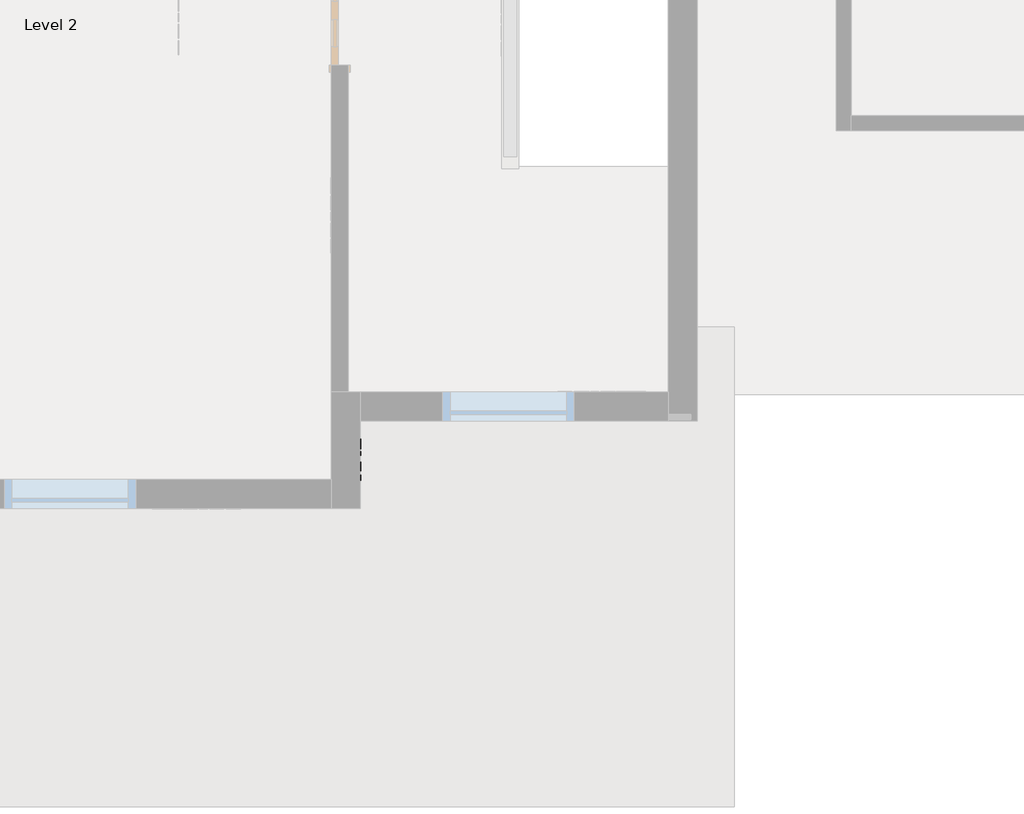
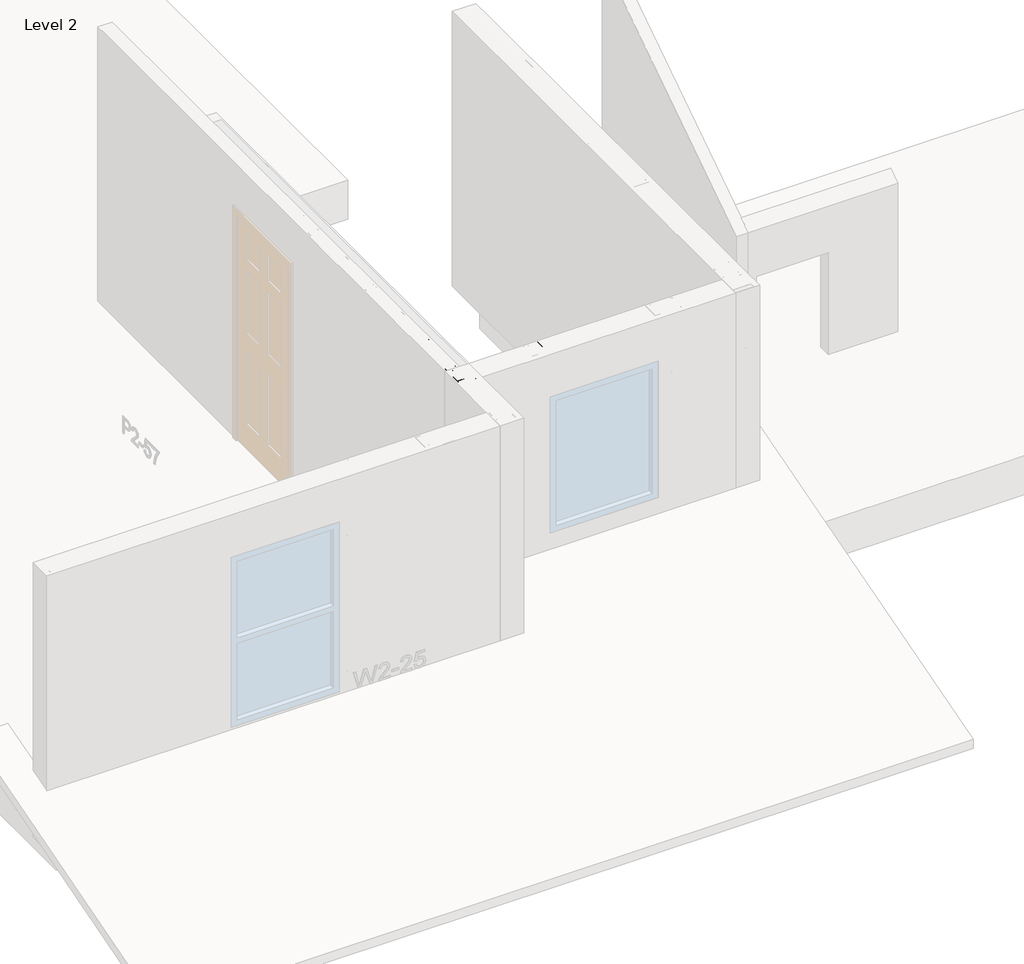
# One storey, part 5 of 46: 6 columns, 2 beams, 1 fastener.
"""IFC4 building model written with IfcOpenShell, lengths in millimetres."""

from ifc_helpers import new_model, si_unit, point, frame, origin, place, context, project, spatial, circle_curve, ellipse_curve, trimmed, transform, mapped, element, save
from ifc_brep_helpers import plane_surface, extruded_surface, advanced_brep
from components import beam_550nf150_43_f91dca98, beam_550nf150_43_4e6669e4, panellabel_ff9b96a9

model = new_model("IFC4")

# Units and contexts
model_context = context("Model", 3, world=origin())
ifc_project = project(units=[si_unit("LENGTHUNIT", "METRE", prefix="MILLI")], contexts=[model_context])

# Site, building, storey
site = spatial("IfcSite", under=ifc_project)
building = spatial("IfcBuilding", under=site)
storey = spatial("IfcBuildingStorey", under=building, Name="Level 2", Elevation=3060.7)

# Beams
placement = place(None, origin())
beam_550nf150_43_shape = beam_550nf150_43_f91dca98(model_context)
element("IfcBeam", 1, ObjectType="BIMSF-SSMA-S : 550NF150-43", at=placement, inside=storey, context=model_context, shape_type="MappedRepresentation", body=[
    mapped(beam_550nf150_43_shape, transform((-10234.7413349, 2492.502221, 3905.25), x_axis=(-1.0, 0.0, 0.0), y_axis=(0.0, 0.0, 1.0), z_axis=(0.0, 1.0, 0.0))),
])
beam_550nf150_43_2_shape = beam_550nf150_43_4e6669e4(model_context)
element("IfcBeam", 2, ObjectType="BIMSF-SSMA-S : 550NF150-43", at=placement, inside=storey, context=model_context, shape_type="MappedRepresentation", body=[
    mapped(beam_550nf150_43_2_shape, transform((-10209.3413349, 2492.502221, 3076.575), x_axis=(-1.0000000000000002, 0.0, 0.0), y_axis=(0.0, 0.0, -1.0000000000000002), z_axis=(0.0, -1.0000000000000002, 0.0))),
])

# Columns
element("IfcColumn", 3, ObjectType="BIMSF-SSMA-S-Column : 350NF150-33", at=placement, inside=storey, context=model_context, shape_type="AdvancedBrep", body=[
    advanced_brep(
    [(-11365.0413349, 2562.352221, 3061.5929687), (-11453.9413349, 2562.352221, 3061.5929687), (-11453.9413349, 2600.452221, 3061.5929687), (-11448.2838191, 2600.452221, 3061.5929687), (-11448.2838191, 2599.5699052, 3061.5929687), (-11453.0590191, 2599.5699052, 3061.5929687), (-11453.0590191, 2563.2345367, 3061.5929687), (-11365.9236507, 2563.2345367, 3061.5929687), (-11365.9236507, 2599.5699052, 3061.5929687), (-11370.6988507, 2599.5699052, 3061.5929687), (-11370.6988507, 2600.452221, 3061.5929687), (-11365.0413349, 2600.452221, 3061.5929687), (-11365.0413349, 2562.352221, 5523.6070313), (-11453.9413349, 2562.352221, 5523.6070313), (-11422.1913349, 2562.352221, 3671.1929688), (-11396.7913349, 2562.352221, 3671.1929688), (-11422.1913349, 2562.352221, 4890.3929687), (-11396.7913349, 2562.352221, 4890.3929687), (-11453.9413349, 2600.452221, 5523.6070313), (-11448.2838191, 2600.452221, 5523.6070313), (-11448.2838191, 2599.5699052, 5523.6070313), (-11453.0590191, 2599.5699052, 5523.6070313), (-11453.0590191, 2563.2345367, 5523.6070313), (-11365.9236507, 2563.2345367, 5523.6070313), (-11396.7913349, 2563.2345367, 3671.1929688), (-11422.1913349, 2563.2345367, 3671.1929688), (-11396.7913349, 2563.2345367, 4890.3929688), (-11422.1913349, 2563.2345367, 4890.3929688), (-11365.9236507, 2599.5699052, 5523.6070313), (-11370.6988507, 2599.5699052, 5523.6070313), (-11370.6988507, 2600.452221, 5523.6070313), (-11365.0413349, 2600.452221, 5523.6070313)],
    [
        (0, 1),
        (1, 2),
        (2, 3),
        (3, 4),
        (4, 5),
        (5, 6),
        (6, 7),
        (7, 8),
        (8, 9),
        (9, 10),
        (10, 11),
        (11, 0),
        (0, 12),
        (12, 13),
        (13, 1),
        (14, 15, circle_curve(frame((-11409.4913349, 2562.352221, 3671.1929688), z_axis=(0.0, 1.0, 0.0), x_axis=(-1.0, 0.0, 0.0)), 12.7)),
        (15, 14, circle_curve(frame((-11409.4913349, 2562.352221, 3671.1929688), z_axis=(0.0, 1.0, 0.0), x_axis=(-1.0, 0.0, 0.0)), 12.7)),
        (16, 17, circle_curve(frame((-11409.4913349, 2562.352221, 4890.3929688), z_axis=(0.0, 1.0, 0.0), x_axis=(-1.0, 0.0, 0.0)), 12.7)),
        (17, 16, circle_curve(frame((-11409.4913349, 2562.352221, 4890.3929688), z_axis=(0.0, 1.0, 0.0), x_axis=(-1.0, 0.0, 0.0)), 12.7)),
        (13, 18),
        (18, 2),
        (18, 19),
        (19, 3),
        (19, 20),
        (20, 4),
        (20, 21),
        (21, 5),
        (21, 22),
        (22, 6),
        (22, 23),
        (23, 7),
        (24, 25, circle_curve(frame((-11409.4913349, 2563.2345367, 3671.1929688), z_axis=(0.0, -1.0, 0.0), x_axis=(-1.0, 0.0, 0.0)), 12.7)),
        (25, 24, circle_curve(frame((-11409.4913349, 2563.2345367, 3671.1929688), z_axis=(0.0, -1.0, 0.0), x_axis=(-1.0, 0.0, 0.0)), 12.7)),
        (26, 27, circle_curve(frame((-11409.4913349, 2563.2345367, 4890.3929687), z_axis=(0.0, -1.0, 0.0), x_axis=(-1.0, 0.0, 0.0)), 12.7)),
        (27, 26, circle_curve(frame((-11409.4913349, 2563.2345367, 4890.3929687), z_axis=(0.0, -1.0, 0.0), x_axis=(-1.0, 0.0, 0.0)), 12.7)),
        (23, 28),
        (28, 8),
        (28, 29),
        (29, 9),
        (29, 30),
        (30, 10),
        (30, 31),
        (31, 11),
        (31, 12),
        (24, 15),
        (14, 25),
        (26, 17),
        (16, 27),
    ],
    [
        plane_surface(frame((-11365.0413349, 2562.352221, 3061.5929687), z_axis=(0.0, 0.0, -1.0), x_axis=(0.0, -1.0, 0.0))),
        plane_surface(frame((-11453.9413349, 2562.352221, 5523.6070313), z_axis=(0.0, -1.0, 0.0), x_axis=(0.0, 0.0, -1.0))),
        plane_surface(frame((-11453.9413349, 2600.452221, 5523.6070313), z_axis=(-1.0, 0.0, 0.0), x_axis=(0.0, 0.0, -1.0))),
        plane_surface(frame((-11448.2838191, 2600.452221, 5523.6070313), z_axis=(0.0, 1.0, 0.0), x_axis=(0.0, 0.0, -1.0))),
        plane_surface(frame((-11448.2838191, 2599.5699052, 5523.6070313), z_axis=(1.0, 0.0, 0.0), x_axis=(0.0, 0.0, -1.0))),
        plane_surface(frame((-11453.0590191, 2599.5699052, 5523.6070313), z_axis=(0.0, -1.0, 0.0), x_axis=(0.0, 0.0, -1.0))),
        plane_surface(frame((-11453.0590191, 2563.2345367, 5523.6070313), z_axis=(1.0, 0.0, 0.0), x_axis=(0.0, 0.0, -1.0))),
        plane_surface(frame((-11365.9236507, 2563.2345367, 5523.6070313), z_axis=(0.0, 1.0, 0.0), x_axis=(0.0, 0.0, -1.0))),
        plane_surface(frame((-11365.9236507, 2599.5699052, 5523.6070313), z_axis=(-1.0, 0.0, 0.0), x_axis=(0.0, 0.0, -1.0))),
        plane_surface(frame((-11370.6988507, 2599.5699052, 5523.6070313), z_axis=(0.0, -1.0, 0.0), x_axis=(0.0, 0.0, -1.0))),
        plane_surface(frame((-11370.6988507, 2600.452221, 5523.6070313), z_axis=(-1.0, 0.0, 0.0), x_axis=(0.0, 0.0, -1.0))),
        plane_surface(frame((-11365.0413349, 2600.452221, 5523.6070313), z_axis=(0.0, 1.0, 0.0), x_axis=(0.0, 0.0, -1.0))),
        plane_surface(frame((-11365.0413349, 2562.352221, 5523.6070313), z_axis=(1.0, 0.0, 0.0), x_axis=(0.0, 0.0, -1.0))),
        plane_surface(frame((-11365.0413349, 2562.352221, 5523.6070313), z_axis=(0.0, 0.0, 1.0), x_axis=(0.0, 1.0, 0.0))),
        extruded_surface(trimmed(ellipse_curve(frame((-11409.4913349, 5043.4162835, 3671.1929688), z_axis=(0.0, -1.0, 0.0), x_axis=(-1.0, 0.0, 0.0)), 12.7, 12.7), [point((-11396.7913349, 5043.4162835, 3671.1929688))], [point((-11422.1913349, 5043.4162835, 3671.1929688))], True, "CARTESIAN"), (0.0, 4924.028125, 0.0), 4924.028125),
        extruded_surface(trimmed(ellipse_curve(frame((-11409.4913349, 5043.4162835, 3671.1929688), z_axis=(0.0, -1.0, 0.0), x_axis=(-1.0, 0.0, 0.0)), 12.7, 12.7), [point((-11422.1913349, 5043.4162835, 3671.1929688))], [point((-11396.7913349, 5043.4162835, 3671.1929688))], True, "CARTESIAN"), (0.0, 4924.028125, 0.0), 4924.028125),
        extruded_surface(trimmed(ellipse_curve(frame((-11409.4913349, 5043.4162835, 4890.3929687), z_axis=(0.0, -1.0, 0.0), x_axis=(-1.0, 0.0, 0.0)), 12.7, 12.7), [point((-11396.7913349, 5043.4162835, 4890.3929687))], [point((-11422.1913349, 5043.4162835, 4890.3929687))], True, "CARTESIAN"), (0.0, 4924.028125, 0.0), 4924.028125),
        extruded_surface(trimmed(ellipse_curve(frame((-11409.4913349, 5043.4162835, 4890.3929687), z_axis=(0.0, -1.0, 0.0), x_axis=(-1.0, 0.0, 0.0)), 12.7, 12.7), [point((-11422.1913349, 5043.4162835, 4890.3929687))], [point((-11396.7913349, 5043.4162835, 4890.3929687))], True, "CARTESIAN"), (0.0, 4924.028125, 0.0), 4924.028125),
    ],
    [
        (0, [[1, 2, 3, 4, 5, 6, 7, 8, 9, 10, 11, 12]]),
        (1, [[-1, 13, 14, 15], [16, 17], [18, 19]]),
        (2, [[-2, -15, 20, 21]]),
        (3, [[-3, -21, 22, 23]]),
        (4, [[-4, -23, 24, 25]]),
        (5, [[-5, -25, 26, 27]]),
        (6, [[-6, -27, 28, 29]]),
        (7, [[-7, -29, 30, 31], [32, 33], [34, 35]]),
        (8, [[-8, -31, 36, 37]]),
        (9, [[-9, -37, 38, 39]]),
        (10, [[-10, -39, 40, 41]]),
        (11, [[-11, -41, 42, 43]]),
        (12, [[-12, -43, 44, -13]]),
        (13, [[-14, -44, -42, -40, -38, -36, -30, -28, -26, -24, -22, -20]]),
        (14, [[45, -16, 46, -32]]),
        (15, [[-45, -33, -46, -17]]),
        (16, [[47, -18, 48, -34]]),
        (17, [[-47, -35, -48, -19]]),
    ],
),
])
element("IfcColumn", 4, ObjectType="BIMSF-SSMA-S-Column : 350NF150-33", at=placement, inside=storey, context=model_context, shape_type="AdvancedBrep", body=[
    advanced_brep(
    [(-11365.0413349, 2949.702221, 3061.5929687), (-11453.9413349, 2949.702221, 3061.5929687), (-11453.9413349, 2987.802221, 3061.5929687), (-11448.2838191, 2987.802221, 3061.5929687), (-11448.2838191, 2986.9199052, 3061.5929687), (-11453.0590191, 2986.9199052, 3061.5929687), (-11453.0590191, 2950.5845367, 3061.5929687), (-11365.9236507, 2950.5845367, 3061.5929687), (-11365.9236507, 2986.9199052, 3061.5929687), (-11370.6988507, 2986.9199052, 3061.5929687), (-11370.6988507, 2987.802221, 3061.5929687), (-11365.0413349, 2987.802221, 3061.5929687), (-11365.0413349, 2949.702221, 5523.6070313), (-11453.9413349, 2949.702221, 5523.6070313), (-11422.1913349, 2949.702221, 3671.1929688), (-11396.7913349, 2949.702221, 3671.1929688), (-11422.1913349, 2949.702221, 4890.3929687), (-11396.7913349, 2949.702221, 4890.3929687), (-11453.9413349, 2987.802221, 5523.6070313), (-11448.2838191, 2987.802221, 5523.6070313), (-11448.2838191, 2986.9199052, 5523.6070313), (-11453.0590191, 2986.9199052, 5523.6070313), (-11453.0590191, 2950.5845367, 5523.6070313), (-11365.9236507, 2950.5845367, 5523.6070313), (-11396.7913349, 2950.5845367, 3671.1929688), (-11422.1913349, 2950.5845367, 3671.1929688), (-11396.7913349, 2950.5845367, 4890.3929688), (-11422.1913349, 2950.5845367, 4890.3929688), (-11365.9236507, 2986.9199052, 5523.6070313), (-11370.6988507, 2986.9199052, 5523.6070313), (-11370.6988507, 2987.802221, 5523.6070313), (-11365.0413349, 2987.802221, 5523.6070313)],
    [
        (0, 1),
        (1, 2),
        (2, 3),
        (3, 4),
        (4, 5),
        (5, 6),
        (6, 7),
        (7, 8),
        (8, 9),
        (9, 10),
        (10, 11),
        (11, 0),
        (0, 12),
        (12, 13),
        (13, 1),
        (14, 15, circle_curve(frame((-11409.4913349, 2949.702221, 3671.1929688), z_axis=(0.0, 1.0, 0.0), x_axis=(-1.0, 0.0, 0.0)), 12.7)),
        (15, 14, circle_curve(frame((-11409.4913349, 2949.702221, 3671.1929688), z_axis=(0.0, 1.0, 0.0), x_axis=(-1.0, 0.0, 0.0)), 12.7)),
        (16, 17, circle_curve(frame((-11409.4913349, 2949.702221, 4890.3929688), z_axis=(0.0, 1.0, 0.0), x_axis=(-1.0, 0.0, 0.0)), 12.7)),
        (17, 16, circle_curve(frame((-11409.4913349, 2949.702221, 4890.3929688), z_axis=(0.0, 1.0, 0.0), x_axis=(-1.0, 0.0, 0.0)), 12.7)),
        (13, 18),
        (18, 2),
        (18, 19),
        (19, 3),
        (19, 20),
        (20, 4),
        (20, 21),
        (21, 5),
        (21, 22),
        (22, 6),
        (22, 23),
        (23, 7),
        (24, 25, circle_curve(frame((-11409.4913349, 2950.5845367, 3671.1929688), z_axis=(0.0, -1.0, 0.0), x_axis=(-1.0, 0.0, 0.0)), 12.7)),
        (25, 24, circle_curve(frame((-11409.4913349, 2950.5845367, 3671.1929688), z_axis=(0.0, -1.0, 0.0), x_axis=(-1.0, 0.0, 0.0)), 12.7)),
        (26, 27, circle_curve(frame((-11409.4913349, 2950.5845367, 4890.3929687), z_axis=(0.0, -1.0, 0.0), x_axis=(-1.0, 0.0, 0.0)), 12.7)),
        (27, 26, circle_curve(frame((-11409.4913349, 2950.5845367, 4890.3929687), z_axis=(0.0, -1.0, 0.0), x_axis=(-1.0, 0.0, 0.0)), 12.7)),
        (23, 28),
        (28, 8),
        (28, 29),
        (29, 9),
        (29, 30),
        (30, 10),
        (30, 31),
        (31, 11),
        (31, 12),
        (24, 15),
        (14, 25),
        (26, 17),
        (16, 27),
    ],
    [
        plane_surface(frame((-11365.0413349, 2949.702221, 3061.5929687), z_axis=(0.0, 0.0, -1.0), x_axis=(0.0, -1.0, 0.0))),
        plane_surface(frame((-11453.9413349, 2949.702221, 5523.6070313), z_axis=(0.0, -1.0, 0.0), x_axis=(0.0, 0.0, -1.0))),
        plane_surface(frame((-11453.9413349, 2987.802221, 5523.6070313), z_axis=(-1.0, 0.0, 0.0), x_axis=(0.0, 0.0, -1.0))),
        plane_surface(frame((-11448.2838191, 2987.802221, 5523.6070313), z_axis=(0.0, 1.0, 0.0), x_axis=(0.0, 0.0, -1.0))),
        plane_surface(frame((-11448.2838191, 2986.9199052, 5523.6070313), z_axis=(1.0, 0.0, 0.0), x_axis=(0.0, 0.0, -1.0))),
        plane_surface(frame((-11453.0590191, 2986.9199052, 5523.6070313), z_axis=(0.0, -1.0, 0.0), x_axis=(0.0, 0.0, -1.0))),
        plane_surface(frame((-11453.0590191, 2950.5845367, 5523.6070313), z_axis=(1.0, 0.0, 0.0), x_axis=(0.0, 0.0, -1.0))),
        plane_surface(frame((-11365.9236507, 2950.5845367, 5523.6070313), z_axis=(0.0, 1.0, 0.0), x_axis=(0.0, 0.0, -1.0))),
        plane_surface(frame((-11365.9236507, 2986.9199052, 5523.6070313), z_axis=(-1.0, 0.0, 0.0), x_axis=(0.0, 0.0, -1.0))),
        plane_surface(frame((-11370.6988507, 2986.9199052, 5523.6070313), z_axis=(0.0, -1.0, 0.0), x_axis=(0.0, 0.0, -1.0))),
        plane_surface(frame((-11370.6988507, 2987.802221, 5523.6070313), z_axis=(-1.0, 0.0, 0.0), x_axis=(0.0, 0.0, -1.0))),
        plane_surface(frame((-11365.0413349, 2987.802221, 5523.6070313), z_axis=(0.0, 1.0, 0.0), x_axis=(0.0, 0.0, -1.0))),
        plane_surface(frame((-11365.0413349, 2949.702221, 5523.6070313), z_axis=(1.0, 0.0, 0.0), x_axis=(0.0, 0.0, -1.0))),
        plane_surface(frame((-11365.0413349, 2949.702221, 5523.6070313), z_axis=(0.0, 0.0, 1.0), x_axis=(0.0, 1.0, 0.0))),
        extruded_surface(trimmed(ellipse_curve(frame((-11409.4913349, 5430.7662835, 3671.1929688), z_axis=(0.0, -1.0, 0.0), x_axis=(-1.0, 0.0, 0.0)), 12.7, 12.7), [point((-11396.7913349, 5430.7662835, 3671.1929688))], [point((-11422.1913349, 5430.7662835, 3671.1929688))], True, "CARTESIAN"), (0.0, 4924.028125, 0.0), 4924.028125),
        extruded_surface(trimmed(ellipse_curve(frame((-11409.4913349, 5430.7662835, 3671.1929688), z_axis=(0.0, -1.0, 0.0), x_axis=(-1.0, 0.0, 0.0)), 12.7, 12.7), [point((-11422.1913349, 5430.7662835, 3671.1929688))], [point((-11396.7913349, 5430.7662835, 3671.1929688))], True, "CARTESIAN"), (0.0, 4924.028125, 0.0), 4924.028125),
        extruded_surface(trimmed(ellipse_curve(frame((-11409.4913349, 5430.7662835, 4890.3929687), z_axis=(0.0, -1.0, 0.0), x_axis=(-1.0, 0.0, 0.0)), 12.7, 12.7), [point((-11396.7913349, 5430.7662835, 4890.3929687))], [point((-11422.1913349, 5430.7662835, 4890.3929687))], True, "CARTESIAN"), (0.0, 4924.028125, 0.0), 4924.028125),
        extruded_surface(trimmed(ellipse_curve(frame((-11409.4913349, 5430.7662835, 4890.3929687), z_axis=(0.0, -1.0, 0.0), x_axis=(-1.0, 0.0, 0.0)), 12.7, 12.7), [point((-11422.1913349, 5430.7662835, 4890.3929687))], [point((-11396.7913349, 5430.7662835, 4890.3929687))], True, "CARTESIAN"), (0.0, 4924.028125, 0.0), 4924.028125),
    ],
    [
        (0, [[1, 2, 3, 4, 5, 6, 7, 8, 9, 10, 11, 12]]),
        (1, [[-1, 13, 14, 15], [16, 17], [18, 19]]),
        (2, [[-2, -15, 20, 21]]),
        (3, [[-3, -21, 22, 23]]),
        (4, [[-4, -23, 24, 25]]),
        (5, [[-5, -25, 26, 27]]),
        (6, [[-6, -27, 28, 29]]),
        (7, [[-7, -29, 30, 31], [32, 33], [34, 35]]),
        (8, [[-8, -31, 36, 37]]),
        (9, [[-9, -37, 38, 39]]),
        (10, [[-10, -39, 40, 41]]),
        (11, [[-11, -41, 42, 43]]),
        (12, [[-12, -43, 44, -13]]),
        (13, [[-14, -44, -42, -40, -38, -36, -30, -28, -26, -24, -22, -20]]),
        (14, [[45, -16, 46, -32]]),
        (15, [[-45, -33, -46, -17]]),
        (16, [[47, -18, 48, -34]]),
        (17, [[-47, -35, -48, -19]]),
    ],
),
])
element("IfcColumn", 5, ObjectType="BIMSF-SSMA-S-Column : 550NF150-43", at=placement, inside=storey, context=model_context, shape_type="AdvancedBrep", body=[
    advanced_brep(
    [(-11453.9413349, 2422.652221, 3061.5929687), (-11314.2413349, 2422.652221, 3061.5929687), (-11314.2413349, 2384.552221, 3061.5929687), (-11320.1662191, 2384.552221, 3061.5929687), (-11320.1662191, 2385.7019052, 3061.5929687), (-11315.3910191, 2385.7019052, 3061.5929687), (-11315.3910191, 2421.5025367, 3061.5929687), (-11452.7916507, 2421.5025367, 3061.5929687), (-11452.7916507, 2385.7019052, 3061.5929687), (-11448.0164507, 2385.7019052, 3061.5929687), (-11448.0164507, 2384.552221, 3061.5929687), (-11453.9413349, 2384.552221, 3061.5929687), (-11453.9413349, 2422.652221, 5523.6070313), (-11314.2413349, 2422.652221, 5523.6070313), (-11371.3913349, 2422.652221, 3671.1929688), (-11396.7913349, 2422.652221, 3671.1929688), (-11371.3913349, 2422.652221, 4890.3929687), (-11396.7913349, 2422.652221, 4890.3929687), (-11314.2413349, 2384.552221, 5523.6070313), (-11320.1662191, 2384.552221, 5523.6070313), (-11320.1662191, 2385.7019052, 5523.6070313), (-11315.3910191, 2385.7019052, 5523.6070313), (-11315.3910191, 2421.5025367, 5523.6070313), (-11452.7916507, 2421.5025367, 5523.6070313), (-11396.7913349, 2421.5025367, 3671.1929688), (-11371.3913349, 2421.5025367, 3671.1929688), (-11396.7913349, 2421.5025367, 4890.3929687), (-11371.3913349, 2421.5025367, 4890.3929687), (-11452.7916507, 2385.7019052, 5523.6070313), (-11448.0164507, 2385.7019052, 5523.6070313), (-11448.0164507, 2384.552221, 5523.6070313), (-11453.9413349, 2384.552221, 5523.6070313)],
    [
        (0, 1),
        (1, 2),
        (2, 3),
        (3, 4),
        (4, 5),
        (5, 6),
        (6, 7),
        (7, 8),
        (8, 9),
        (9, 10),
        (10, 11),
        (11, 0),
        (0, 12),
        (12, 13),
        (13, 1),
        (14, 15, circle_curve(frame((-11384.0913349, 2422.652221, 3671.1929688), z_axis=(0.0, -1.0, 0.0), x_axis=(1.0, 0.0, 0.0)), 12.7)),
        (15, 14, circle_curve(frame((-11384.0913349, 2422.652221, 3671.1929687), z_axis=(0.0, -1.0, 0.0), x_axis=(1.0, 0.0, 0.0)), 12.7)),
        (16, 17, circle_curve(frame((-11384.0913349, 2422.652221, 4890.3929687), z_axis=(0.0, -1.0, 0.0), x_axis=(1.0, 0.0, 0.0)), 12.7)),
        (17, 16, circle_curve(frame((-11384.0913349, 2422.652221, 4890.3929687), z_axis=(0.0, -1.0, 0.0), x_axis=(1.0, 0.0, 0.0)), 12.7)),
        (13, 18),
        (18, 2),
        (18, 19),
        (19, 3),
        (19, 20),
        (20, 4),
        (20, 21),
        (21, 5),
        (21, 22),
        (22, 6),
        (22, 23),
        (23, 7),
        (24, 25, circle_curve(frame((-11384.0913349, 2421.5025367, 3671.1929687), z_axis=(0.0, 1.0, 0.0), x_axis=(1.0, 0.0, 0.0)), 12.7)),
        (25, 24, circle_curve(frame((-11384.0913349, 2421.5025367, 3671.1929688), z_axis=(0.0, 1.0, 0.0), x_axis=(1.0, 0.0, 0.0)), 12.7)),
        (26, 27, circle_curve(frame((-11384.0913349, 2421.5025367, 4890.3929687), z_axis=(0.0, 1.0, 0.0), x_axis=(1.0, 0.0, 0.0)), 12.7)),
        (27, 26, circle_curve(frame((-11384.0913349, 2421.5025367, 4890.3929687), z_axis=(0.0, 1.0, 0.0), x_axis=(1.0, 0.0, 0.0)), 12.7)),
        (23, 28),
        (28, 8),
        (28, 29),
        (29, 9),
        (29, 30),
        (30, 10),
        (30, 31),
        (31, 11),
        (31, 12),
        (24, 15),
        (14, 25),
        (26, 17),
        (16, 27),
    ],
    [
        plane_surface(frame((-11453.9413349, 2422.652221, 3061.5929687), z_axis=(0.0, 0.0, -1.0), x_axis=(0.0, 1.0, 0.0))),
        plane_surface(frame((-11314.2413349, 2422.652221, 5523.6070313), z_axis=(0.0, 1.0, 0.0), x_axis=(0.0, 0.0, -1.0))),
        plane_surface(frame((-11314.2413349, 2384.552221, 5523.6070313), z_axis=(1.0, 0.0, 0.0), x_axis=(0.0, 0.0, -1.0))),
        plane_surface(frame((-11320.1662191, 2384.552221, 5523.6070313), z_axis=(0.0, -1.0, 0.0), x_axis=(0.0, 0.0, -1.0))),
        plane_surface(frame((-11320.1662191, 2385.7019052, 5523.6070313), z_axis=(-1.0, 0.0, 0.0), x_axis=(0.0, 0.0, -1.0))),
        plane_surface(frame((-11315.3910191, 2385.7019052, 5523.6070313), z_axis=(0.0, 1.0, 0.0), x_axis=(0.0, 0.0, -1.0))),
        plane_surface(frame((-11315.3910191, 2421.5025367, 5523.6070313), z_axis=(-1.0, 0.0, 0.0), x_axis=(0.0, 0.0, -1.0))),
        plane_surface(frame((-11452.7916507, 2421.5025367, 5523.6070313), z_axis=(0.0, -1.0, 0.0), x_axis=(0.0, 0.0, -1.0))),
        plane_surface(frame((-11452.7916507, 2385.7019052, 5523.6070313), z_axis=(1.0, 0.0, 0.0), x_axis=(0.0, 0.0, -1.0))),
        plane_surface(frame((-11448.0164507, 2385.7019052, 5523.6070313), z_axis=(0.0, 1.0, 0.0), x_axis=(0.0, 0.0, -1.0))),
        plane_surface(frame((-11448.0164507, 2384.552221, 5523.6070313), z_axis=(1.0, 0.0, 0.0), x_axis=(0.0, 0.0, -1.0))),
        plane_surface(frame((-11453.9413349, 2384.552221, 5523.6070313), z_axis=(0.0, -1.0, 0.0), x_axis=(0.0, 0.0, -1.0))),
        plane_surface(frame((-11453.9413349, 2422.652221, 5523.6070313), z_axis=(-1.0, 0.0, 0.0), x_axis=(0.0, 0.0, -1.0))),
        plane_surface(frame((-11453.9413349, 2422.652221, 5523.6070313), z_axis=(0.0, 0.0, 1.0), x_axis=(0.0, -1.0, 0.0))),
        extruded_surface(trimmed(ellipse_curve(frame((-11384.0913349, -58.4118415, 3671.1929688), z_axis=(0.0, 1.0, 0.0), x_axis=(1.0, 0.0, 0.0)), 12.7, 12.7), [point((-11396.7913349, -58.4118415, 3671.1929688))], [point((-11371.3913349, -58.4118415, 3671.1929688))], True, "CARTESIAN"), (0.0, -4924.028125, 0.0), 4924.028125),
        extruded_surface(trimmed(ellipse_curve(frame((-11384.0913349, -58.4118415, 3671.1929688), z_axis=(0.0, 1.0, 0.0), x_axis=(1.0, 0.0, 0.0)), 12.7, 12.7), [point((-11371.3913349, -58.4118415, 3671.1929688))], [point((-11396.7913349, -58.4118415, 3671.1929688))], True, "CARTESIAN"), (0.0, -4924.028125, 0.0), 4924.028125),
        extruded_surface(trimmed(ellipse_curve(frame((-11384.0913349, -58.4118415, 4890.3929687), z_axis=(0.0, 1.0, 0.0), x_axis=(1.0, 0.0, 0.0)), 12.7, 12.7), [point((-11396.7913349, -58.4118415, 4890.3929687))], [point((-11371.3913349, -58.4118415, 4890.3929687))], True, "CARTESIAN"), (0.0, -4924.028125, 0.0), 4924.028125),
        extruded_surface(trimmed(ellipse_curve(frame((-11384.0913349, -58.4118415, 4890.3929687), z_axis=(0.0, 1.0, 0.0), x_axis=(1.0, 0.0, 0.0)), 12.7, 12.7), [point((-11371.3913349, -58.4118415, 4890.3929687))], [point((-11396.7913349, -58.4118415, 4890.3929687))], True, "CARTESIAN"), (0.0, -4924.028125, 0.0), 4924.028125),
    ],
    [
        (0, [[1, 2, 3, 4, 5, 6, 7, 8, 9, 10, 11, 12]]),
        (1, [[-1, 13, 14, 15], [16, 17], [18, 19]]),
        (2, [[-2, -15, 20, 21]]),
        (3, [[-3, -21, 22, 23]]),
        (4, [[-4, -23, 24, 25]]),
        (5, [[-5, -25, 26, 27]]),
        (6, [[-6, -27, 28, 29]]),
        (7, [[-7, -29, 30, 31], [32, 33], [34, 35]]),
        (8, [[-8, -31, 36, 37]]),
        (9, [[-9, -37, 38, 39]]),
        (10, [[-10, -39, 40, 41]]),
        (11, [[-11, -41, 42, 43]]),
        (12, [[-12, -43, 44, -13]]),
        (13, [[-14, -44, -42, -40, -38, -36, -30, -28, -26, -24, -22, -20]]),
        (14, [[45, -16, 46, -32]]),
        (15, [[-45, -33, -46, -17]]),
        (16, [[47, -18, 48, -34]]),
        (17, [[-47, -35, -48, -19]]),
    ],
),
])
element("IfcColumn", 6, ObjectType="BIMSF-SSMA-S-Column : 550NF150-43", at=placement, inside=storey, context=model_context, shape_type="AdvancedBrep", body=[
    advanced_brep(
    [(-10691.9413349, 2562.352221, 3061.5929687), (-10691.9413349, 2422.652221, 3061.5929687), (-10730.0413349, 2422.652221, 3061.5929687), (-10730.0413349, 2428.5771052, 3061.5929687), (-10728.8916507, 2428.5771052, 3061.5929687), (-10728.8916507, 2423.8019052, 3061.5929687), (-10693.0910191, 2423.8019052, 3061.5929687), (-10693.0910191, 2561.2025367, 3061.5929687), (-10728.8916507, 2561.2025367, 3061.5929687), (-10728.8916507, 2556.4273367, 3061.5929687), (-10730.0413349, 2556.4273367, 3061.5929687), (-10730.0413349, 2562.352221, 3061.5929687), (-10691.9413349, 2562.352221, 5523.6070313), (-10691.9413349, 2422.652221, 5523.6070313), (-10691.9413349, 2479.802221, 3671.1929687), (-10691.9413349, 2505.202221, 3671.1929687), (-10691.9413349, 2479.802221, 4890.3929687), (-10691.9413349, 2505.202221, 4890.3929687), (-10730.0413349, 2422.652221, 5523.6070313), (-10730.0413349, 2428.5771052, 5523.6070313), (-10728.8916507, 2428.5771052, 5523.6070313), (-10728.8916507, 2423.8019052, 5523.6070313), (-10693.0910191, 2423.8019052, 5523.6070313), (-10693.0910191, 2561.2025367, 5523.6070313), (-10693.0910191, 2505.202221, 3671.1929688), (-10693.0910191, 2479.802221, 3671.1929688), (-10693.0910191, 2505.202221, 4890.3929688), (-10693.0910191, 2479.802221, 4890.3929688), (-10728.8916507, 2561.2025367, 5523.6070313), (-10728.8916507, 2556.4273367, 5523.6070313), (-10730.0413349, 2556.4273367, 5523.6070313), (-10730.0413349, 2562.352221, 5523.6070313)],
    [
        (0, 1),
        (1, 2),
        (2, 3),
        (3, 4),
        (4, 5),
        (5, 6),
        (6, 7),
        (7, 8),
        (8, 9),
        (9, 10),
        (10, 11),
        (11, 0),
        (0, 12),
        (12, 13),
        (13, 1),
        (14, 15, circle_curve(frame((-10691.9413349, 2492.502221, 3671.1929688), z_axis=(-1.0, 0.0, 0.0), x_axis=(0.0, -1.0, 0.0)), 12.7)),
        (15, 14, circle_curve(frame((-10691.9413349, 2492.502221, 3671.1929688), z_axis=(-1.0, 0.0, 0.0), x_axis=(0.0, -1.0, 0.0)), 12.7)),
        (16, 17, circle_curve(frame((-10691.9413349, 2492.502221, 4890.3929687), z_axis=(-1.0, 0.0, 0.0), x_axis=(0.0, -1.0, 0.0)), 12.7)),
        (17, 16, circle_curve(frame((-10691.9413349, 2492.502221, 4890.3929687), z_axis=(-1.0, 0.0, 0.0), x_axis=(0.0, -1.0, 0.0)), 12.7)),
        (13, 18),
        (18, 2),
        (18, 19),
        (19, 3),
        (19, 20),
        (20, 4),
        (20, 21),
        (21, 5),
        (21, 22),
        (22, 6),
        (22, 23),
        (23, 7),
        (24, 25, circle_curve(frame((-10693.0910191, 2492.502221, 3671.1929688), z_axis=(1.0, 0.0, 0.0), x_axis=(0.0, -1.0, 0.0)), 12.7)),
        (25, 24, circle_curve(frame((-10693.0910191, 2492.502221, 3671.1929688), z_axis=(1.0, 0.0, 0.0), x_axis=(0.0, -1.0, 0.0)), 12.7)),
        (26, 27, circle_curve(frame((-10693.0910191, 2492.502221, 4890.3929687), z_axis=(1.0, 0.0, 0.0), x_axis=(0.0, -1.0, 0.0)), 12.7)),
        (27, 26, circle_curve(frame((-10693.0910191, 2492.502221, 4890.3929687), z_axis=(1.0, 0.0, 0.0), x_axis=(0.0, -1.0, 0.0)), 12.7)),
        (23, 28),
        (28, 8),
        (28, 29),
        (29, 9),
        (29, 30),
        (30, 10),
        (30, 31),
        (31, 11),
        (31, 12),
        (24, 15),
        (14, 25),
        (26, 17),
        (16, 27),
    ],
    [
        plane_surface(frame((-10691.9413349, 2562.352221, 3061.5929687), z_axis=(0.0, 0.0, -1.0), x_axis=(1.0, 0.0, 0.0))),
        plane_surface(frame((-10691.9413349, 2422.652221, 5523.6070313), z_axis=(1.0, 0.0, 0.0), x_axis=(0.0, 0.0, -1.0))),
        plane_surface(frame((-10730.0413349, 2422.652221, 5523.6070313), z_axis=(0.0, -1.0, 0.0), x_axis=(0.0, 0.0, -1.0))),
        plane_surface(frame((-10730.0413349, 2428.5771052, 5523.6070313), z_axis=(-1.0, 0.0, 0.0), x_axis=(0.0, 0.0, -1.0))),
        plane_surface(frame((-10728.8916507, 2428.5771052, 5523.6070313), z_axis=(0.0, 1.0, 0.0), x_axis=(0.0, 0.0, -1.0))),
        plane_surface(frame((-10728.8916507, 2423.8019052, 5523.6070313), z_axis=(1.0, 0.0, 0.0), x_axis=(0.0, 0.0, -1.0))),
        plane_surface(frame((-10693.0910191, 2423.8019052, 5523.6070313), z_axis=(0.0, 1.0, 0.0), x_axis=(0.0, 0.0, -1.0))),
        plane_surface(frame((-10693.0910191, 2561.2025367, 5523.6070313), z_axis=(-1.0, 0.0, 0.0), x_axis=(0.0, 0.0, -1.0))),
        plane_surface(frame((-10728.8916507, 2561.2025367, 5523.6070313), z_axis=(0.0, -1.0, 0.0), x_axis=(0.0, 0.0, -1.0))),
        plane_surface(frame((-10728.8916507, 2556.4273367, 5523.6070313), z_axis=(1.0, 0.0, 0.0), x_axis=(0.0, 0.0, -1.0))),
        plane_surface(frame((-10730.0413349, 2556.4273367, 5523.6070313), z_axis=(0.0, -1.0, 0.0), x_axis=(0.0, 0.0, -1.0))),
        plane_surface(frame((-10730.0413349, 2562.352221, 5523.6070313), z_axis=(-1.0, 0.0, 0.0), x_axis=(0.0, 0.0, -1.0))),
        plane_surface(frame((-10691.9413349, 2562.352221, 5523.6070313), z_axis=(0.0, 1.0, 0.0), x_axis=(0.0, 0.0, -1.0))),
        plane_surface(frame((-10691.9413349, 2562.352221, 5523.6070313), z_axis=(0.0, 0.0, 1.0), x_axis=(-1.0, 0.0, 0.0))),
        extruded_surface(trimmed(ellipse_curve(frame((-13173.0053974, 2492.502221, 3671.1929688), z_axis=(1.0, 0.0, 0.0), x_axis=(0.0, -1.0, 0.0)), 12.7, 12.7), [point((-13173.0053974, 2505.202221, 3671.1929688))], [point((-13173.0053974, 2479.802221, 3671.1929688))], True, "CARTESIAN"), (-4924.028125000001, 0.0, 0.0), 4924.028125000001),
        extruded_surface(trimmed(ellipse_curve(frame((-13173.0053974, 2492.502221, 3671.1929688), z_axis=(1.0, 0.0, 0.0), x_axis=(0.0, -1.0, 0.0)), 12.7, 12.7), [point((-13173.0053974, 2479.802221, 3671.1929688))], [point((-13173.0053974, 2505.202221, 3671.1929688))], True, "CARTESIAN"), (-4924.028125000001, 0.0, 0.0), 4924.028125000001),
        extruded_surface(trimmed(ellipse_curve(frame((-13173.0053974, 2492.502221, 4890.3929687), z_axis=(1.0, 0.0, 0.0), x_axis=(0.0, -1.0, 0.0)), 12.7, 12.7), [point((-13173.0053974, 2505.202221, 4890.3929687))], [point((-13173.0053974, 2479.802221, 4890.3929687))], True, "CARTESIAN"), (-4924.028125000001, 0.0, 0.0), 4924.028125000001),
        extruded_surface(trimmed(ellipse_curve(frame((-13173.0053974, 2492.502221, 4890.3929687), z_axis=(1.0, 0.0, 0.0), x_axis=(0.0, -1.0, 0.0)), 12.7, 12.7), [point((-13173.0053974, 2479.802221, 4890.3929687))], [point((-13173.0053974, 2505.202221, 4890.3929687))], True, "CARTESIAN"), (-4924.028125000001, 0.0, 0.0), 4924.028125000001),
    ],
    [
        (0, [[1, 2, 3, 4, 5, 6, 7, 8, 9, 10, 11, 12]]),
        (1, [[-1, 13, 14, 15], [16, 17], [18, 19]]),
        (2, [[-2, -15, 20, 21]]),
        (3, [[-3, -21, 22, 23]]),
        (4, [[-4, -23, 24, 25]]),
        (5, [[-5, -25, 26, 27]]),
        (6, [[-6, -27, 28, 29]]),
        (7, [[-7, -29, 30, 31], [32, 33], [34, 35]]),
        (8, [[-8, -31, 36, 37]]),
        (9, [[-9, -37, 38, 39]]),
        (10, [[-10, -39, 40, 41]]),
        (11, [[-11, -41, 42, 43]]),
        (12, [[-12, -43, 44, -13]]),
        (13, [[-14, -44, -42, -40, -38, -36, -30, -28, -26, -24, -22, -20]]),
        (14, [[45, -16, 46, -32]]),
        (15, [[-45, -33, -46, -17]]),
        (16, [[47, -18, 48, -34]]),
        (17, [[-47, -35, -48, -19]]),
    ],
),
])
element("IfcColumn", 7, ObjectType="BIMSF-SSMA-S-Column : 550NF150-43", at=placement, inside=storey, context=model_context, shape_type="AdvancedBrep", body=[
    advanced_brep(
    [(-11453.9413349, 2422.652221, 3061.5929687), (-11453.9413349, 2562.352221, 3061.5929687), (-11415.8413349, 2562.352221, 3061.5929687), (-11415.8413349, 2556.4273367, 3061.5929687), (-11416.9910191, 2556.4273367, 3061.5929687), (-11416.9910191, 2561.2025367, 3061.5929687), (-11452.7916507, 2561.2025367, 3061.5929687), (-11452.7916507, 2423.8019052, 3061.5929687), (-11416.9910191, 2423.8019052, 3061.5929687), (-11416.9910191, 2428.5771052, 3061.5929687), (-11415.8413349, 2428.5771052, 3061.5929687), (-11415.8413349, 2422.652221, 3061.5929687), (-11453.9413349, 2422.652221, 5523.6070313), (-11453.9413349, 2562.352221, 5523.6070313), (-11453.9413349, 2505.202221, 3671.1929688), (-11453.9413349, 2479.802221, 3671.1929688), (-11453.9413349, 2505.202221, 4890.3929687), (-11453.9413349, 2479.802221, 4890.3929687), (-11415.8413349, 2562.352221, 5523.6070313), (-11415.8413349, 2556.4273367, 5523.6070313), (-11416.9910191, 2556.4273367, 5523.6070313), (-11416.9910191, 2561.2025367, 5523.6070313), (-11452.7916507, 2561.2025367, 5523.6070313), (-11452.7916507, 2423.8019052, 5523.6070313), (-11452.7916507, 2479.802221, 3671.1929688), (-11452.7916507, 2505.202221, 3671.1929688), (-11452.7916507, 2479.802221, 4890.3929687), (-11452.7916507, 2505.202221, 4890.3929687), (-11416.9910191, 2423.8019052, 5523.6070313), (-11416.9910191, 2428.5771052, 5523.6070313), (-11415.8413349, 2428.5771052, 5523.6070313), (-11415.8413349, 2422.652221, 5523.6070313)],
    [
        (0, 1),
        (1, 2),
        (2, 3),
        (3, 4),
        (4, 5),
        (5, 6),
        (6, 7),
        (7, 8),
        (8, 9),
        (9, 10),
        (10, 11),
        (11, 0),
        (0, 12),
        (12, 13),
        (13, 1),
        (14, 15, circle_curve(frame((-11453.9413349, 2492.502221, 3671.1929688), z_axis=(1.0, 0.0, 0.0), x_axis=(0.0, 1.0, 0.0)), 12.7)),
        (15, 14, circle_curve(frame((-11453.9413349, 2492.502221, 3671.1929688), z_axis=(1.0, 0.0, 0.0), x_axis=(0.0, 1.0, 0.0)), 12.7)),
        (16, 17, circle_curve(frame((-11453.9413349, 2492.502221, 4890.3929687), z_axis=(1.0, 0.0, 0.0), x_axis=(0.0, 1.0, 0.0)), 12.7)),
        (17, 16, circle_curve(frame((-11453.9413349, 2492.502221, 4890.3929687), z_axis=(1.0, 0.0, 0.0), x_axis=(0.0, 1.0, 0.0)), 12.7)),
        (13, 18),
        (18, 2),
        (18, 19),
        (19, 3),
        (19, 20),
        (20, 4),
        (20, 21),
        (21, 5),
        (21, 22),
        (22, 6),
        (22, 23),
        (23, 7),
        (24, 25, circle_curve(frame((-11452.7916507, 2492.502221, 3671.1929687), z_axis=(-1.0, 0.0, 0.0), x_axis=(0.0, 1.0, 0.0)), 12.7)),
        (25, 24, circle_curve(frame((-11452.7916507, 2492.502221, 3671.1929687), z_axis=(-1.0, 0.0, 0.0), x_axis=(0.0, 1.0, 0.0)), 12.7)),
        (26, 27, circle_curve(frame((-11452.7916507, 2492.502221, 4890.3929687), z_axis=(-1.0, 0.0, 0.0), x_axis=(0.0, 1.0, 0.0)), 12.7)),
        (27, 26, circle_curve(frame((-11452.7916507, 2492.502221, 4890.3929687), z_axis=(-1.0, 0.0, 0.0), x_axis=(0.0, 1.0, 0.0)), 12.7)),
        (23, 28),
        (28, 8),
        (28, 29),
        (29, 9),
        (29, 30),
        (30, 10),
        (30, 31),
        (31, 11),
        (31, 12),
        (24, 15),
        (14, 25),
        (26, 17),
        (16, 27),
    ],
    [
        plane_surface(frame((-11453.9413349, 2422.652221, 3061.5929687), z_axis=(0.0, 0.0, -1.0), x_axis=(-1.0, 0.0, 0.0))),
        plane_surface(frame((-11453.9413349, 2562.352221, 5523.6070313), z_axis=(-1.0, 0.0, 0.0), x_axis=(0.0, 0.0, -1.0))),
        plane_surface(frame((-11415.8413349, 2562.352221, 5523.6070313), z_axis=(0.0, 1.0, 0.0), x_axis=(0.0, 0.0, -1.0))),
        plane_surface(frame((-11415.8413349, 2556.4273367, 5523.6070313), z_axis=(1.0, 0.0, 0.0), x_axis=(0.0, 0.0, -1.0))),
        plane_surface(frame((-11416.9910191, 2556.4273367, 5523.6070313), z_axis=(0.0, -1.0, 0.0), x_axis=(0.0, 0.0, -1.0))),
        plane_surface(frame((-11416.9910191, 2561.2025367, 5523.6070313), z_axis=(-1.0, 0.0, 0.0), x_axis=(0.0, 0.0, -1.0))),
        plane_surface(frame((-11452.7916507, 2561.2025367, 5523.6070313), z_axis=(0.0, -1.0, 0.0), x_axis=(0.0, 0.0, -1.0))),
        plane_surface(frame((-11452.7916507, 2423.8019052, 5523.6070313), z_axis=(1.0, 0.0, 0.0), x_axis=(0.0, 0.0, -1.0))),
        plane_surface(frame((-11416.9910191, 2423.8019052, 5523.6070313), z_axis=(0.0, 1.0, 0.0), x_axis=(0.0, 0.0, -1.0))),
        plane_surface(frame((-11416.9910191, 2428.5771052, 5523.6070313), z_axis=(-1.0, 0.0, 0.0), x_axis=(0.0, 0.0, -1.0))),
        plane_surface(frame((-11415.8413349, 2428.5771052, 5523.6070313), z_axis=(0.0, 1.0, 0.0), x_axis=(0.0, 0.0, -1.0))),
        plane_surface(frame((-11415.8413349, 2422.652221, 5523.6070313), z_axis=(1.0, 0.0, 0.0), x_axis=(0.0, 0.0, -1.0))),
        plane_surface(frame((-11453.9413349, 2422.652221, 5523.6070313), z_axis=(0.0, -1.0, 0.0), x_axis=(0.0, 0.0, -1.0))),
        plane_surface(frame((-11453.9413349, 2422.652221, 5523.6070313), z_axis=(0.0, 0.0, 1.0), x_axis=(1.0, 0.0, 0.0))),
        extruded_surface(trimmed(ellipse_curve(frame((-8972.8772724, 2492.502221, 3671.1929688), z_axis=(-1.0, 0.0, 0.0), x_axis=(0.0, 1.0, 0.0)), 12.7, 12.7), [point((-8972.8772724, 2479.802221, 3671.1929688))], [point((-8972.8772724, 2505.202221, 3671.1929688))], True, "CARTESIAN"), (4924.028124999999, 0.0, 0.0), 4924.028124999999),
        extruded_surface(trimmed(ellipse_curve(frame((-8972.8772724, 2492.502221, 3671.1929688), z_axis=(-1.0, 0.0, 0.0), x_axis=(0.0, 1.0, 0.0)), 12.7, 12.7), [point((-8972.8772724, 2505.202221, 3671.1929688))], [point((-8972.8772724, 2479.802221, 3671.1929688))], True, "CARTESIAN"), (4924.028124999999, 0.0, 0.0), 4924.028124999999),
        extruded_surface(trimmed(ellipse_curve(frame((-8972.8772724, 2492.502221, 4890.3929687), z_axis=(-1.0, 0.0, 0.0), x_axis=(0.0, 1.0, 0.0)), 12.7, 12.7), [point((-8972.8772724, 2479.802221, 4890.3929687))], [point((-8972.8772724, 2505.202221, 4890.3929687))], True, "CARTESIAN"), (4924.028124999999, 0.0, 0.0), 4924.028124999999),
        extruded_surface(trimmed(ellipse_curve(frame((-8972.8772724, 2492.502221, 4890.3929687), z_axis=(-1.0, 0.0, 0.0), x_axis=(0.0, 1.0, 0.0)), 12.7, 12.7), [point((-8972.8772724, 2505.202221, 4890.3929687))], [point((-8972.8772724, 2479.802221, 4890.3929687))], True, "CARTESIAN"), (4924.028124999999, 0.0, 0.0), 4924.028124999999),
    ],
    [
        (0, [[1, 2, 3, 4, 5, 6, 7, 8, 9, 10, 11, 12]]),
        (1, [[-1, 13, 14, 15], [16, 17], [18, 19]]),
        (2, [[-2, -15, 20, 21]]),
        (3, [[-3, -21, 22, 23]]),
        (4, [[-4, -23, 24, 25]]),
        (5, [[-5, -25, 26, 27]]),
        (6, [[-6, -27, 28, 29]]),
        (7, [[-7, -29, 30, 31], [32, 33], [34, 35]]),
        (8, [[-8, -31, 36, 37]]),
        (9, [[-9, -37, 38, 39]]),
        (10, [[-10, -39, 40, 41]]),
        (11, [[-11, -41, 42, 43]]),
        (12, [[-12, -43, 44, -13]]),
        (13, [[-14, -44, -42, -40, -38, -36, -30, -28, -26, -24, -22, -20]]),
        (14, [[45, -16, 46, -32]]),
        (15, [[-45, -33, -46, -17]]),
        (16, [[47, -18, 48, -34]]),
        (17, [[-47, -35, -48, -19]]),
    ],
),
])
element("IfcColumn", 8, ObjectType="BIMSF-SSMA-S-Column : 550NF150-43", at=placement, inside=storey, context=model_context, shape_type="AdvancedBrep", body=[
    advanced_brep(
    [(-10202.9913349, 2422.652221, 3061.5929687), (-10202.9913349, 2562.352221, 3061.5929687), (-10164.8913349, 2562.352221, 3061.5929687), (-10164.8913349, 2556.4273367, 3061.5929687), (-10166.0410191, 2556.4273367, 3061.5929687), (-10166.0410191, 2561.2025367, 3061.5929687), (-10201.8416507, 2561.2025367, 3061.5929687), (-10201.8416507, 2423.8019052, 3061.5929687), (-10166.0410191, 2423.8019052, 3061.5929687), (-10166.0410191, 2428.5771052, 3061.5929687), (-10164.8913349, 2428.5771052, 3061.5929687), (-10164.8913349, 2422.652221, 3061.5929687), (-10202.9913349, 2422.652221, 3920.2320313), (-10202.9913349, 2562.352221, 3920.2320313), (-10202.9913349, 2505.202221, 3366.3929687), (-10202.9913349, 2479.802221, 3366.3929687), (-10164.8913349, 2562.352221, 3920.2320313), (-10164.8913349, 2556.4273367, 3920.2320313), (-10166.0410191, 2556.4273367, 3920.2320313), (-10166.0410191, 2561.2025367, 3920.2320313), (-10201.8416507, 2561.2025367, 3920.2320313), (-10201.8416507, 2423.8019052, 3920.2320313), (-10201.8416507, 2479.802221, 3366.3929687), (-10201.8416507, 2505.202221, 3366.3929687), (-10166.0410191, 2423.8019052, 3920.2320313), (-10166.0410191, 2428.5771052, 3920.2320313), (-10164.8913349, 2428.5771052, 3920.2320313), (-10164.8913349, 2422.652221, 3920.2320313)],
    [
        (0, 1),
        (1, 2),
        (2, 3),
        (3, 4),
        (4, 5),
        (5, 6),
        (6, 7),
        (7, 8),
        (8, 9),
        (9, 10),
        (10, 11),
        (11, 0),
        (0, 12),
        (12, 13),
        (13, 1),
        (14, 15, circle_curve(frame((-10202.9913349, 2492.502221, 3366.3929688), z_axis=(1.0, 0.0, 0.0), x_axis=(0.0, 1.0, 0.0)), 12.7)),
        (15, 14, circle_curve(frame((-10202.9913349, 2492.502221, 3366.3929688), z_axis=(1.0, 0.0, 0.0), x_axis=(0.0, 1.0, 0.0)), 12.7)),
        (13, 16),
        (16, 2),
        (16, 17),
        (17, 3),
        (17, 18),
        (18, 4),
        (18, 19),
        (19, 5),
        (19, 20),
        (20, 6),
        (20, 21),
        (21, 7),
        (22, 23, circle_curve(frame((-10201.8416507, 2492.502221, 3366.3929687), z_axis=(-1.0, 0.0, 0.0), x_axis=(0.0, 1.0, 0.0)), 12.7)),
        (23, 22, circle_curve(frame((-10201.8416507, 2492.502221, 3366.3929687), z_axis=(-1.0, 0.0, 0.0), x_axis=(0.0, 1.0, 0.0)), 12.7)),
        (21, 24),
        (24, 8),
        (24, 25),
        (25, 9),
        (25, 26),
        (26, 10),
        (26, 27),
        (27, 11),
        (27, 12),
        (22, 15),
        (14, 23),
    ],
    [
        plane_surface(frame((-10202.9913349, 2422.652221, 3061.5929687), z_axis=(0.0, 0.0, -1.0), x_axis=(-1.0, 0.0, 0.0))),
        plane_surface(frame((-10202.9913349, 2562.352221, 3920.2320313), z_axis=(-1.0, 0.0, 0.0), x_axis=(0.0, 0.0, -1.0))),
        plane_surface(frame((-10164.8913349, 2562.352221, 3920.2320313), z_axis=(0.0, 1.0, 0.0), x_axis=(0.0, 0.0, -1.0))),
        plane_surface(frame((-10164.8913349, 2556.4273367, 3920.2320313), z_axis=(1.0, 0.0, 0.0), x_axis=(0.0, 0.0, -1.0))),
        plane_surface(frame((-10166.0410191, 2556.4273367, 3920.2320313), z_axis=(0.0, -1.0, 0.0), x_axis=(0.0, 0.0, -1.0))),
        plane_surface(frame((-10166.0410191, 2561.2025367, 3920.2320313), z_axis=(-1.0, 0.0, 0.0), x_axis=(0.0, 0.0, -1.0))),
        plane_surface(frame((-10201.8416507, 2561.2025367, 3920.2320313), z_axis=(0.0, -1.0, 0.0), x_axis=(0.0, 0.0, -1.0))),
        plane_surface(frame((-10201.8416507, 2423.8019052, 3920.2320313), z_axis=(1.0, 0.0, 0.0), x_axis=(0.0, 0.0, -1.0))),
        plane_surface(frame((-10166.0410191, 2423.8019052, 3920.2320313), z_axis=(0.0, 1.0, 0.0), x_axis=(0.0, 0.0, -1.0))),
        plane_surface(frame((-10166.0410191, 2428.5771052, 3920.2320313), z_axis=(-1.0, 0.0, 0.0), x_axis=(0.0, 0.0, -1.0))),
        plane_surface(frame((-10164.8913349, 2428.5771052, 3920.2320313), z_axis=(0.0, 1.0, 0.0), x_axis=(0.0, 0.0, -1.0))),
        plane_surface(frame((-10164.8913349, 2422.652221, 3920.2320313), z_axis=(1.0, 0.0, 0.0), x_axis=(0.0, 0.0, -1.0))),
        plane_surface(frame((-10202.9913349, 2422.652221, 3920.2320313), z_axis=(0.0, -1.0, 0.0), x_axis=(0.0, 0.0, -1.0))),
        plane_surface(frame((-10202.9913349, 2422.652221, 3920.2320313), z_axis=(0.0, 0.0, 1.0), x_axis=(1.0, 0.0, 0.0))),
        extruded_surface(trimmed(ellipse_curve(frame((-9325.3022724, 2492.502221, 3366.3929687), z_axis=(-1.0, 0.0, 0.0), x_axis=(0.0, 1.0, 0.0)), 12.7, 12.7), [point((-9325.3022724, 2479.802221, 3366.3929687))], [point((-9325.3022724, 2505.202221, 3366.3929687))], True, "CARTESIAN"), (1717.2781249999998, 0.0, 0.0), 1717.2781249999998),
        extruded_surface(trimmed(ellipse_curve(frame((-9325.3022724, 2492.502221, 3366.3929687), z_axis=(-1.0, 0.0, 0.0), x_axis=(0.0, 1.0, 0.0)), 12.7, 12.7), [point((-9325.3022724, 2505.202221, 3366.3929687))], [point((-9325.3022724, 2479.802221, 3366.3929687))], True, "CARTESIAN"), (1717.2781249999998, 0.0, 0.0), 1717.2781249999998),
    ],
    [
        (0, [[1, 2, 3, 4, 5, 6, 7, 8, 9, 10, 11, 12]]),
        (1, [[-1, 13, 14, 15], [16, 17]]),
        (2, [[-2, -15, 18, 19]]),
        (3, [[-3, -19, 20, 21]]),
        (4, [[-4, -21, 22, 23]]),
        (5, [[-5, -23, 24, 25]]),
        (6, [[-6, -25, 26, 27]]),
        (7, [[-7, -27, 28, 29], [30, 31]]),
        (8, [[-8, -29, 32, 33]]),
        (9, [[-9, -33, 34, 35]]),
        (10, [[-10, -35, 36, 37]]),
        (11, [[-11, -37, 38, 39]]),
        (12, [[-12, -39, 40, -13]]),
        (13, [[-14, -40, -38, -36, -34, -32, -28, -26, -24, -22, -20, -18]]),
        (14, [[41, -16, 42, -30]]),
        (15, [[-41, -31, -42, -17]]),
    ],
),
])

# Fastener
panellabel_shape = panellabel_ff9b96a9(model_context)
element("IfcFastener", 9, ObjectType="PanelLabel : Miranda", at=placement, inside=storey, context=model_context, shape_type="MappedRepresentation", body=[
    mapped(panellabel_shape, transform((-11369.0100849, 2270.252221, 2290.0539682), x_axis=(0.0, -1.0, 0.0), y_axis=(1.0, 0.0, 0.0), z_axis=(0.0, 0.0, 1.0))),
])

save(model, "model.ifc")
